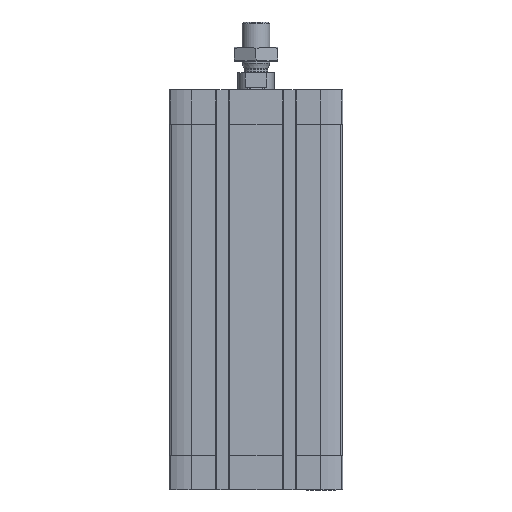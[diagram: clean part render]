
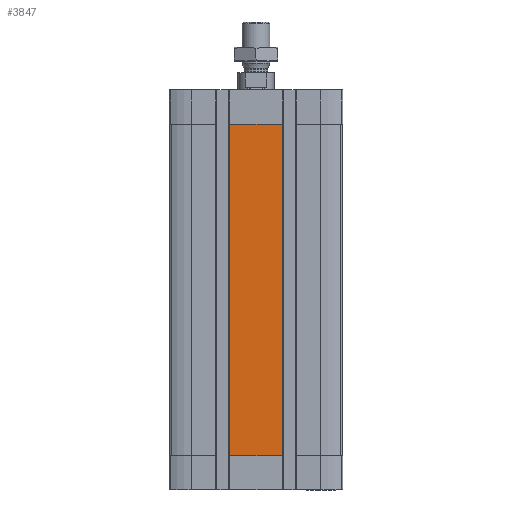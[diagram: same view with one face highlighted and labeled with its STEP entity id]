
A CAD part, front view. The second image highlights one B-rep face of the part: STEP entity #3847.
In plain terms, the highlighted planar face has unit normal (0, -1, 0).
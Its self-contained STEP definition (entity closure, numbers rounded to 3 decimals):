
#759 = EDGE_CURVE ( 'NONE', #10731, #1706, #13600, .T. ) ;
#923 = EDGE_CURVE ( 'NONE', #1706, #8985, #8538, .T. ) ;
#1294 = DIRECTION ( 'NONE',  ( 0., -1., 0. ) ) ;
#1297 = EDGE_CURVE ( 'NONE', #8985, #14105, #15234, .T. ) ;
#1706 = VERTEX_POINT ( 'NONE', #3579 ) ;
#2892 = ORIENTED_EDGE ( 'NONE', *, *, #923, .T. ) ;
#2984 = CARTESIAN_POINT ( 'NONE',  ( 11.4, -37.5, -159. ) ) ;
#3112 = ORIENTED_EDGE ( 'NONE', *, *, #1297, .T. ) ;
#3210 = VECTOR ( 'NONE', #9840, 1000. ) ;
#3579 = CARTESIAN_POINT ( 'NONE',  ( 11.4, -37.5, -15. ) ) ;
#3671 = EDGE_CURVE ( 'NONE', #14105, #10731, #9590, .T. ) ;
#3833 = PLANE ( 'NONE',  #12215 ) ;
#3847 = ADVANCED_FACE ( 'NONE', ( #12551 ), #3833, .T. ) ;
#5181 = DIRECTION ( 'NONE',  ( -1., 0., 0. ) ) ;
#5691 = CARTESIAN_POINT ( 'NONE',  ( 0., -37.5, -15. ) ) ;
#6831 = ORIENTED_EDGE ( 'NONE', *, *, #3671, .T. ) ;
#8349 = VECTOR ( 'NONE', #5181, 1000. ) ;
#8429 = CARTESIAN_POINT ( 'NONE',  ( -11.4, -37.5, -159. ) ) ;
#8538 = LINE ( 'NONE', #5691, #8349 ) ;
#8835 = DIRECTION ( 'NONE',  ( 0., 0., -1. ) ) ;
#8985 = VERTEX_POINT ( 'NONE', #11273 ) ;
#9590 = LINE ( 'NONE', #15802, #3210 ) ;
#9840 = DIRECTION ( 'NONE',  ( 1., 0., 0. ) ) ;
#10207 = DIRECTION ( 'NONE',  ( 0., 0., -1. ) ) ;
#10731 = VERTEX_POINT ( 'NONE', #2984 ) ;
#11209 = CARTESIAN_POINT ( 'NONE',  ( 11.4, -37.5, -159. ) ) ;
#11273 = CARTESIAN_POINT ( 'NONE',  ( -11.4, -37.5, -15. ) ) ;
#11362 = DIRECTION ( 'NONE',  ( 0., 0., 1. ) ) ;
#12215 = AXIS2_PLACEMENT_3D ( 'NONE', #15018, #1294, #10207 ) ;
#12247 = ORIENTED_EDGE ( 'NONE', *, *, #759, .T. ) ;
#12551 = FACE_OUTER_BOUND ( 'NONE', #13559, .T. ) ;
#12596 = VECTOR ( 'NONE', #11362, 1000. ) ;
#13559 = EDGE_LOOP ( 'NONE', ( #6831, #12247, #2892, #3112 ) ) ;
#13600 = LINE ( 'NONE', #11209, #12596 ) ;
#14105 = VERTEX_POINT ( 'NONE', #14708 ) ;
#14708 = CARTESIAN_POINT ( 'NONE',  ( -11.4, -37.5, -159. ) ) ;
#14885 = VECTOR ( 'NONE', #8835, 1000. ) ;
#15018 = CARTESIAN_POINT ( 'NONE',  ( -11.4, -37.5, -159. ) ) ;
#15234 = LINE ( 'NONE', #8429, #14885 ) ;
#15802 = CARTESIAN_POINT ( 'NONE',  ( -11.4, -37.5, -159. ) ) ;
